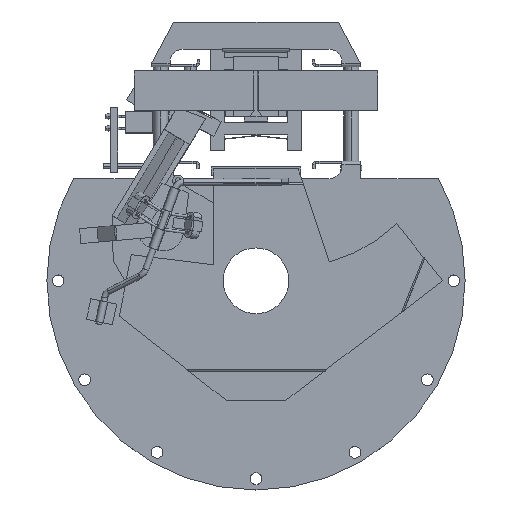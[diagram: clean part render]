
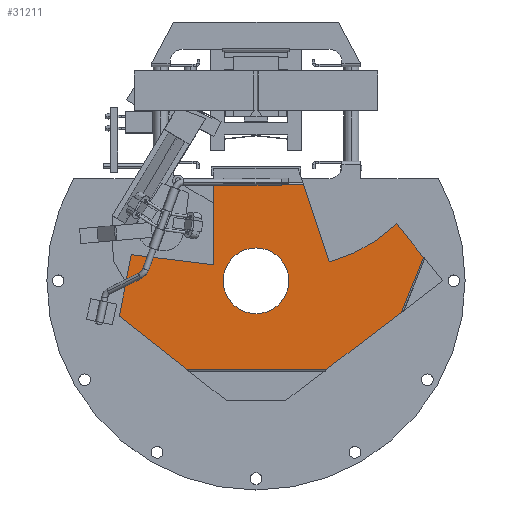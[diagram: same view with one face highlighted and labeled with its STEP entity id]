
A CAD part, top view. The second image highlights one B-rep face of the part: STEP entity #31211.
In plain terms, the highlighted planar face has unit normal (0, 0, 1).
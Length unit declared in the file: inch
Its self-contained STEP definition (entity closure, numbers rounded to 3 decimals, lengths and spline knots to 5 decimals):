
#518 = VERTEX_POINT ( 'NONE', #45618 ) ;
#15711 = CARTESIAN_POINT ( 'NONE',  ( -1.1435, -0.29546, 0.05 ) ) ;
#15734 = CARTESIAN_POINT ( 'NONE',  ( 0.275, 0., 0.05 ) ) ;
#15737 = CARTESIAN_POINT ( 'NONE',  ( -0.275, 0., 0.05 ) ) ;
#15828 = CARTESIAN_POINT ( 'NONE',  ( 1.21624, -0.26353, 0.05 ) ) ;
#15835 = DIRECTION ( 'NONE',  ( 0.785, -0.619, 0. ) ) ;
#15836 = VECTOR ( 'NONE', #15835, 39.37008 ) ;
#15837 = CARTESIAN_POINT ( 'NONE',  ( -0.25, -1., 0.05 ) ) ;
#15844 = DIRECTION ( 'NONE',  ( 1., 0., 0. ) ) ;
#15845 = DIRECTION ( 'NONE',  ( 0., 0., 1. ) ) ;
#15846 = CARTESIAN_POINT ( 'NONE',  ( 0., 0., 0.05 ) ) ;
#15847 = AXIS2_PLACEMENT_3D ( 'NONE', #15846, #15845, #15844 ) ;
#15850 = CIRCLE ( 'NONE', #15847, 0.275 ) ;
#15856 = LINE ( 'NONE', #15837, #15836 ) ;
#15888 = DIRECTION ( 'NONE',  ( 0.795, 0.606, 0. ) ) ;
#15889 = VECTOR ( 'NONE', #15888, 39.37008 ) ;
#15890 = CARTESIAN_POINT ( 'NONE',  ( 1.562, 0., 0.05 ) ) ;
#15895 = LINE ( 'NONE', #15890, #15889 ) ;
#15929 = CARTESIAN_POINT ( 'NONE',  ( 0.58456, -0.745, 0.05 ) ) ;
#15950 = CARTESIAN_POINT ( 'NONE',  ( -0.57339, -0.745, 0.05 ) ) ;
#15985 = CARTESIAN_POINT ( 'NONE',  ( 1.40106, 0.19874, 0.05 ) ) ;
#16129 = LINE ( 'NONE', #16154, #16153 ) ;
#16136 = DIRECTION ( 'NONE',  ( -0.993, 0.122, 0. ) ) ;
#16153 = VECTOR ( 'NONE', #16136, 39.37008 ) ;
#16154 = CARTESIAN_POINT ( 'NONE',  ( -0.3535, 0.13428, 0.05 ) ) ;
#16167 = CARTESIAN_POINT ( 'NONE',  ( 1.17534, 0.47748, 0.05 ) ) ;
#16192 = CARTESIAN_POINT ( 'NONE',  ( 1.17534, 0.47748, 0.05 ) ) ;
#16196 = LINE ( 'NONE', #16192, #16233 ) ;
#16232 = DIRECTION ( 'NONE',  ( -0.629, 0.777, 0. ) ) ;
#16233 = VECTOR ( 'NONE', #16232, 39.37008 ) ;
#16644 = AXIS2_PLACEMENT_3D ( 'NONE', #16689, #16674, #16673 ) ;
#16673 = DIRECTION ( 'NONE',  ( 1., 0., 0. ) ) ;
#16674 = DIRECTION ( 'NONE',  ( 0., 0., 1. ) ) ;
#16687 = DIRECTION ( 'NONE',  ( -1., 0., 0. ) ) ;
#16688 = VECTOR ( 'NONE', #16687, 39.37008 ) ;
#16689 = CARTESIAN_POINT ( 'NONE',  ( 0., 0., 0.05 ) ) ;
#16691 = CARTESIAN_POINT ( 'NONE',  ( -0.3535, 0.808, 0.05 ) ) ;
#16697 = CARTESIAN_POINT ( 'NONE',  ( 0.281, -0.745, 0.05 ) ) ;
#16698 = LINE ( 'NONE', #16697, #16688 ) ;
#16699 = CIRCLE ( 'NONE', #16644, 0.275 ) ;
#16700 = DIRECTION ( 'NONE',  ( 0., -1., 0. ) ) ;
#16701 = VECTOR ( 'NONE', #16700, 39.37008 ) ;
#16702 = CARTESIAN_POINT ( 'NONE',  ( -0.3535, 0.937, 0.05 ) ) ;
#16703 = LINE ( 'NONE', #16702, #16701 ) ;
#16726 = DIRECTION ( 'NONE',  ( -0.191, -0.982, 0. ) ) ;
#16728 = DIRECTION ( 'NONE',  ( -0.371, -0.929, 0. ) ) ;
#16729 = VECTOR ( 'NONE', #16728, 39.37008 ) ;
#16733 = VECTOR ( 'NONE', #16726, 39.37008 ) ;
#16734 = CARTESIAN_POINT ( 'NONE',  ( -1.1435, -0.29546, 0.05 ) ) ;
#16739 = LINE ( 'NONE', #16734, #16733 ) ;
#16740 = CARTESIAN_POINT ( 'NONE',  ( 1.65941, 0.8449, 0.05 ) ) ;
#16741 = LINE ( 'NONE', #16740, #16729 ) ;
#16744 = DIRECTION ( 'NONE',  ( 1., 0., 0. ) ) ;
#16745 = DIRECTION ( 'NONE',  ( 0., 0., -1. ) ) ;
#16746 = CARTESIAN_POINT ( 'NONE',  ( 0.281, 1.396, 0.05 ) ) ;
#16747 = AXIS2_PLACEMENT_3D ( 'NONE', #16746, #16745, #16744 ) ;
#16748 = CIRCLE ( 'NONE', #16747, 1.282 ) ;
#16776 = CARTESIAN_POINT ( 'NONE',  ( 0.613, 0.15774, 0.05 ) ) ;
#16807 = CARTESIAN_POINT ( 'NONE',  ( -1.0435, 0.219, 0.05 ) ) ;
#18537 = VERTEX_POINT ( 'NONE', #15711 ) ;
#18552 = VERTEX_POINT ( 'NONE', #15737 ) ;
#18554 = VERTEX_POINT ( 'NONE', #15734 ) ;
#18591 = EDGE_CURVE ( 'NONE', #18552, #18554, #15850, .T. ) ;
#18601 = EDGE_CURVE ( 'NONE', #18537, #18659, #15856, .T. ) ;
#18616 = VERTEX_POINT ( 'NONE', #15828 ) ;
#18630 = EDGE_CURVE ( 'NONE', #18643, #18616, #15895, .T. ) ;
#18643 = VERTEX_POINT ( 'NONE', #15929 ) ;
#18659 = VERTEX_POINT ( 'NONE', #15950 ) ;
#18673 = VERTEX_POINT ( 'NONE', #15985 ) ;
#18769 = EDGE_CURVE ( 'NONE', #518, #19071, #16129, .T. ) ;
#18778 = VERTEX_POINT ( 'NONE', #16167 ) ;
#18781 = EDGE_CURVE ( 'NONE', #18673, #18778, #16196, .T. ) ;
#19010 = EDGE_CURVE ( 'NONE', #19018, #518, #16703, .T. ) ;
#19015 = EDGE_CURVE ( 'NONE', #18643, #18659, #16698, .T. ) ;
#19018 = VERTEX_POINT ( 'NONE', #16691 ) ;
#19019 = EDGE_CURVE ( 'NONE', #18554, #18552, #16699, .T. ) ;
#19027 = ORIENTED_EDGE ( 'NONE', *, *, #31226, .T. ) ;
#19029 = ORIENTED_EDGE ( 'NONE', *, *, #19015, .F. ) ;
#19034 = EDGE_LOOP ( 'NONE', ( #19029, #31213, #31218, #31215, #31230, #19027, #19037, #31181, #81160, #31189, #31196 ) ) ;
#19037 = ORIENTED_EDGE ( 'NONE', *, *, #30275, .T. ) ;
#19038 = EDGE_CURVE ( 'NONE', #18673, #18616, #16741, .T. ) ;
#19042 = EDGE_CURVE ( 'NONE', #19071, #18537, #16739, .T. ) ;
#19059 = EDGE_CURVE ( 'NONE', #18778, #19069, #16748, .T. ) ;
#19069 = VERTEX_POINT ( 'NONE', #16776 ) ;
#19071 = VERTEX_POINT ( 'NONE', #16807 ) ;
#30275 = EDGE_CURVE ( 'NONE', #31231, #19018, #63795, .T. ) ;
#31174 = EDGE_LOOP ( 'NONE', ( #31193, #31192 ) ) ;
#31181 = ORIENTED_EDGE ( 'NONE', *, *, #19010, .T. ) ;
#31189 = ORIENTED_EDGE ( 'NONE', *, *, #19042, .T. ) ;
#31192 = ORIENTED_EDGE ( 'NONE', *, *, #19019, .F. ) ;
#31193 = ORIENTED_EDGE ( 'NONE', *, *, #18591, .F. ) ;
#31196 = ORIENTED_EDGE ( 'NONE', *, *, #18601, .T. ) ;
#31211 = ADVANCED_FACE ( 'NONE', ( #65972, #65973 ), #65931, .T. ) ;
#31213 = ORIENTED_EDGE ( 'NONE', *, *, #18630, .T. ) ;
#31215 = ORIENTED_EDGE ( 'NONE', *, *, #18781, .T. ) ;
#31218 = ORIENTED_EDGE ( 'NONE', *, *, #19038, .F. ) ;
#31226 = EDGE_CURVE ( 'NONE', #19069, #31231, #65992, .T. ) ;
#31230 = ORIENTED_EDGE ( 'NONE', *, *, #19059, .T. ) ;
#31231 = VERTEX_POINT ( 'NONE', #65999 ) ;
#45618 = CARTESIAN_POINT ( 'NONE',  ( -0.3535, 0.13428, 0.05 ) ) ;
#63793 = VECTOR ( 'NONE', #63883, 39.37008 ) ;
#63794 = CARTESIAN_POINT ( 'NONE',  ( 0.281, 0.808, 0.05 ) ) ;
#63795 = LINE ( 'NONE', #63794, #63793 ) ;
#63883 = DIRECTION ( 'NONE',  ( -1., 0., 0. ) ) ;
#65931 = PLANE ( 'NONE',  #65964 ) ;
#65964 = AXIS2_PLACEMENT_3D ( 'NONE', #65997, #65996, #65995 ) ;
#65972 = FACE_OUTER_BOUND ( 'NONE', #19034, .T. ) ;
#65973 = FACE_BOUND ( 'NONE', #31174, .T. ) ;
#65989 = DIRECTION ( 'NONE',  ( -0.316, 0.949, 0. ) ) ;
#65990 = VECTOR ( 'NONE', #65989, 39.37008 ) ;
#65991 = CARTESIAN_POINT ( 'NONE',  ( 0.3535, 0.937, 0.05 ) ) ;
#65992 = LINE ( 'NONE', #65991, #65990 ) ;
#65995 = DIRECTION ( 'NONE',  ( 1., 0., 0. ) ) ;
#65996 = DIRECTION ( 'NONE',  ( 0., 0., 1. ) ) ;
#65997 = CARTESIAN_POINT ( 'NONE',  ( 0.281, 1.396, 0.05 ) ) ;
#65999 = CARTESIAN_POINT ( 'NONE',  ( 0.39646, 0.808, 0.05 ) ) ;
#81160 = ORIENTED_EDGE ( 'NONE', *, *, #18769, .T. ) ;
